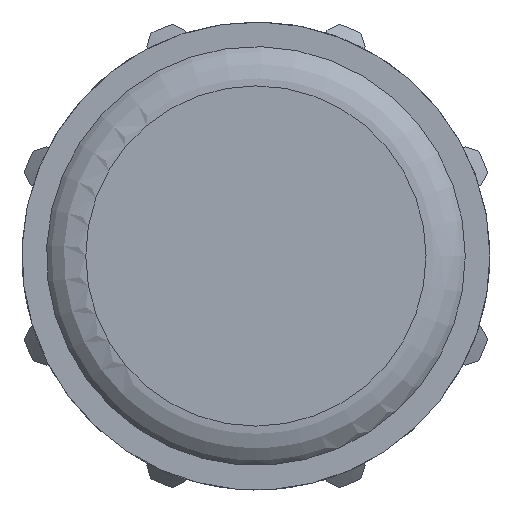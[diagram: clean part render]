
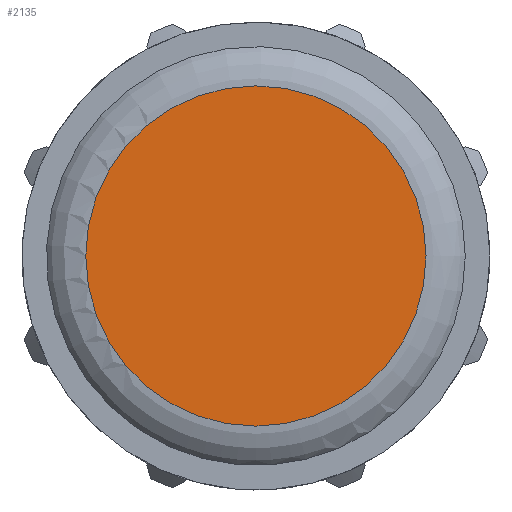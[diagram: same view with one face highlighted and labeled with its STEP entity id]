
A CAD part, left-side view. The second image highlights one B-rep face of the part: STEP entity #2135.
In plain terms, the highlighted planar face has unit normal (-1, 0, 0).
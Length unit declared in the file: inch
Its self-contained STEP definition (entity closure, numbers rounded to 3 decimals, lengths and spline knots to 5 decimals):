
#94=PLANE('',#2282);
#487=FACE_OUTER_BOUND('',#602,.T.);
#602=EDGE_LOOP('',(#1387));
#732=CIRCLE('',#2278,1.30544);
#841=VERTEX_POINT('',#3115);
#1058=EDGE_CURVE('',#841,#841,#732,.T.);
#1387=ORIENTED_EDGE('',*,*,#1058,.F.);
#2135=ADVANCED_FACE('',(#487),#94,.T.);
#2278=AXIS2_PLACEMENT_3D('',#3116,#2518,#2519);
#2282=AXIS2_PLACEMENT_3D('',#3122,#2526,#2527);
#2518=DIRECTION('center_axis',(1.,0.,0.));
#2519=DIRECTION('ref_axis',(0.,1.,0.));
#2526=DIRECTION('center_axis',(-1.,0.,0.));
#2527=DIRECTION('ref_axis',(0.,0.,1.));
#3115=CARTESIAN_POINT('',(0.,-1.30544,0.00056));
#3116=CARTESIAN_POINT('Origin',(0.,0.,0.));
#3122=CARTESIAN_POINT('Origin',(0.,1.6065,0.));
